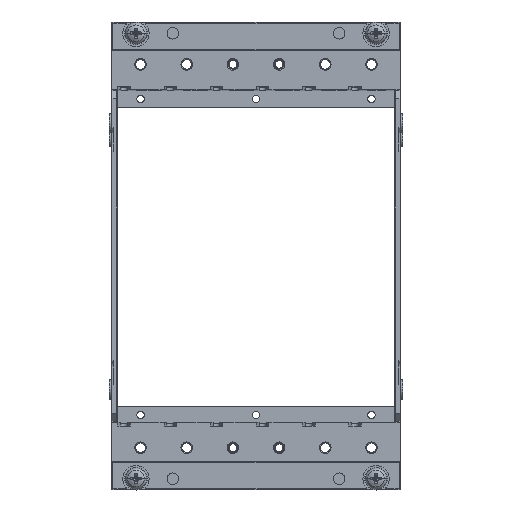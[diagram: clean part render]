
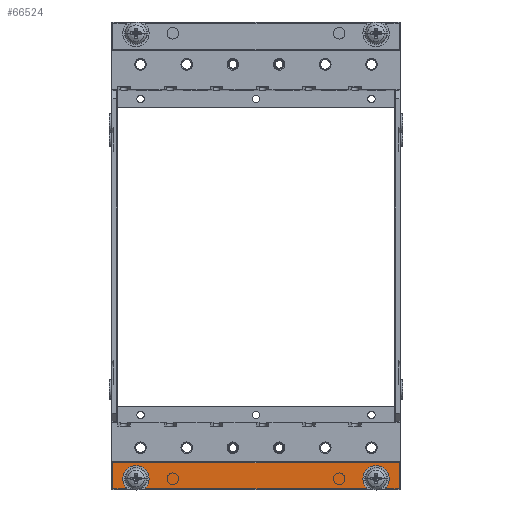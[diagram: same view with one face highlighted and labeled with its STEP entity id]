
A CAD part, top view. The second image highlights one B-rep face of the part: STEP entity #66524.
In plain terms, the highlighted planar face has unit normal (0, 0, 1).
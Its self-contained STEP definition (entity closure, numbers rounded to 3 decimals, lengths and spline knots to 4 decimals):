
#27451=DIRECTION('',(0.,1.,0.));
#27452=VECTOR('',#27451,0.285);
#27453=CARTESIAN_POINT('',(-0.11,-0.651,6.316));
#27454=LINE('',#27453,#27452);
#27455=DIRECTION('',(1.,0.,0.));
#27456=VECTOR('',#27455,3.1);
#27457=CARTESIAN_POINT('',(-0.11,-0.366,6.316));
#27458=LINE('',#27457,#27456);
#27459=DIRECTION('',(0.,-1.,0.));
#27460=VECTOR('',#27459,0.285);
#27461=CARTESIAN_POINT('',(2.99,-0.366,6.316));
#27462=LINE('',#27461,#27460);
#27463=DIRECTION('',(-1.,0.,0.));
#27464=VECTOR('',#27463,0.1349);
#27465=CARTESIAN_POINT('',(2.99,-0.651,6.316));
#27466=LINE('',#27465,#27464);
#27467=CARTESIAN_POINT('',(2.8551,-0.641,6.316));
#27468=DIRECTION('',(0.,0.,-1.));
#27469=DIRECTION('',(0.,-1.,0.));
#27470=AXIS2_PLACEMENT_3D('',#27467,#27468,#27469);
#27472=CARTESIAN_POINT('',(2.74,-0.541,6.316));
#27473=DIRECTION('',(0.,0.,1.));
#27474=DIRECTION('',(0.755,-0.656,0.));
#27475=AXIS2_PLACEMENT_3D('',#27472,#27473,#27474);
#27477=CARTESIAN_POINT('',(2.6249,-0.641,6.316));
#27478=DIRECTION('',(0.,0.,-1.));
#27479=DIRECTION('',(0.755,0.656,0.));
#27480=AXIS2_PLACEMENT_3D('',#27477,#27478,#27479);
#27482=DIRECTION('',(-1.,0.,0.));
#27483=VECTOR('',#27482,2.3697);
#27484=CARTESIAN_POINT('',(2.6249,-0.651,6.316));
#27485=LINE('',#27484,#27483);
#27486=CARTESIAN_POINT('',(0.2551,-0.641,6.316));
#27487=DIRECTION('',(0.,0.,-1.));
#27488=DIRECTION('',(0.,-1.,0.));
#27489=AXIS2_PLACEMENT_3D('',#27486,#27487,#27488);
#27491=CARTESIAN_POINT('',(0.14,-0.541,6.316));
#27492=DIRECTION('',(0.,0.,1.));
#27493=DIRECTION('',(0.755,-0.656,0.));
#27494=AXIS2_PLACEMENT_3D('',#27491,#27492,#27493);
#27496=CARTESIAN_POINT('',(0.0249,-0.641,6.316));
#27497=DIRECTION('',(0.,0.,-1.));
#27498=DIRECTION('',(0.755,0.656,0.));
#27499=AXIS2_PLACEMENT_3D('',#27496,#27497,#27498);
#27501=DIRECTION('',(-1.,0.,0.));
#27502=VECTOR('',#27501,0.1349);
#27503=CARTESIAN_POINT('',(0.0249,-0.651,6.316));
#27504=LINE('',#27503,#27502);
#33357=CARTESIAN_POINT('',(-0.11,-0.651,6.316));
#33358=CARTESIAN_POINT('',(-0.11,-0.366,6.316));
#33359=VERTEX_POINT('',#33357);
#33360=VERTEX_POINT('',#33358);
#33361=CARTESIAN_POINT('',(2.99,-0.366,6.316));
#33362=VERTEX_POINT('',#33361);
#33363=CARTESIAN_POINT('',(2.99,-0.651,6.316));
#33364=VERTEX_POINT('',#33363);
#33365=CARTESIAN_POINT('',(0.0249,-0.651,6.316));
#33366=VERTEX_POINT('',#33365);
#33367=CARTESIAN_POINT('',(2.8551,-0.651,6.316));
#33368=VERTEX_POINT('',#33367);
#33369=CARTESIAN_POINT('',(2.8476,-0.6344,6.316));
#33370=VERTEX_POINT('',#33369);
#33371=CARTESIAN_POINT('',(2.6324,-0.6344,6.316));
#33372=VERTEX_POINT('',#33371);
#33373=CARTESIAN_POINT('',(2.6249,-0.651,6.316));
#33374=VERTEX_POINT('',#33373);
#33375=CARTESIAN_POINT('',(0.2551,-0.651,6.316));
#33376=VERTEX_POINT('',#33375);
#33377=CARTESIAN_POINT('',(0.2476,-0.6344,6.316));
#33378=VERTEX_POINT('',#33377);
#33379=CARTESIAN_POINT('',(0.0324,-0.6344,6.316));
#33380=VERTEX_POINT('',#33379);
#66505=CARTESIAN_POINT('',(1.44,-0.651,6.316));
#66506=DIRECTION('',(0.,0.,-1.));
#66507=DIRECTION('',(1.,0.,0.));
#66508=AXIS2_PLACEMENT_3D('',#66505,#66506,#66507);
#66509=PLANE('',#66508);
#66510=ORIENTED_EDGE('',*,*,#66345,.T.);
#66511=ORIENTED_EDGE('',*,*,#66360,.T.);
#66512=ORIENTED_EDGE('',*,*,#66374,.T.);
#66513=ORIENTED_EDGE('',*,*,#66388,.T.);
#66514=ORIENTED_EDGE('',*,*,#66402,.T.);
#66515=ORIENTED_EDGE('',*,*,#66416,.T.);
#66516=ORIENTED_EDGE('',*,*,#66430,.T.);
#66517=ORIENTED_EDGE('',*,*,#66444,.T.);
#66518=ORIENTED_EDGE('',*,*,#66458,.T.);
#66519=ORIENTED_EDGE('',*,*,#66472,.T.);
#66520=ORIENTED_EDGE('',*,*,#66486,.T.);
#66521=ORIENTED_EDGE('',*,*,#66499,.T.);
#66522=EDGE_LOOP('',(#66510,#66511,#66512,#66513,#66514,#66515,#66516,#66517,
#66518,#66519,#66520,#66521));
#66523=FACE_OUTER_BOUND('',#66522,.F.);
#66524=ADVANCED_FACE('',(#66523),#66509,.F.);
#27471=CIRCLE('',#27470,0.01);
#27476=CIRCLE('',#27475,0.1425);
#27481=CIRCLE('',#27480,0.01);
#27490=CIRCLE('',#27489,0.01);
#27495=CIRCLE('',#27494,0.1425);
#27500=CIRCLE('',#27499,0.01);
#66345=EDGE_CURVE('',#33359,#33360,#27454,.T.);
#66360=EDGE_CURVE('',#33360,#33362,#27458,.T.);
#66374=EDGE_CURVE('',#33362,#33364,#27462,.T.);
#66388=EDGE_CURVE('',#33364,#33368,#27466,.T.);
#66402=EDGE_CURVE('',#33368,#33370,#27471,.T.);
#66416=EDGE_CURVE('',#33370,#33372,#27476,.T.);
#66430=EDGE_CURVE('',#33372,#33374,#27481,.T.);
#66444=EDGE_CURVE('',#33374,#33376,#27485,.T.);
#66458=EDGE_CURVE('',#33376,#33378,#27490,.T.);
#66472=EDGE_CURVE('',#33378,#33380,#27495,.T.);
#66486=EDGE_CURVE('',#33380,#33366,#27500,.T.);
#66499=EDGE_CURVE('',#33366,#33359,#27504,.T.);
